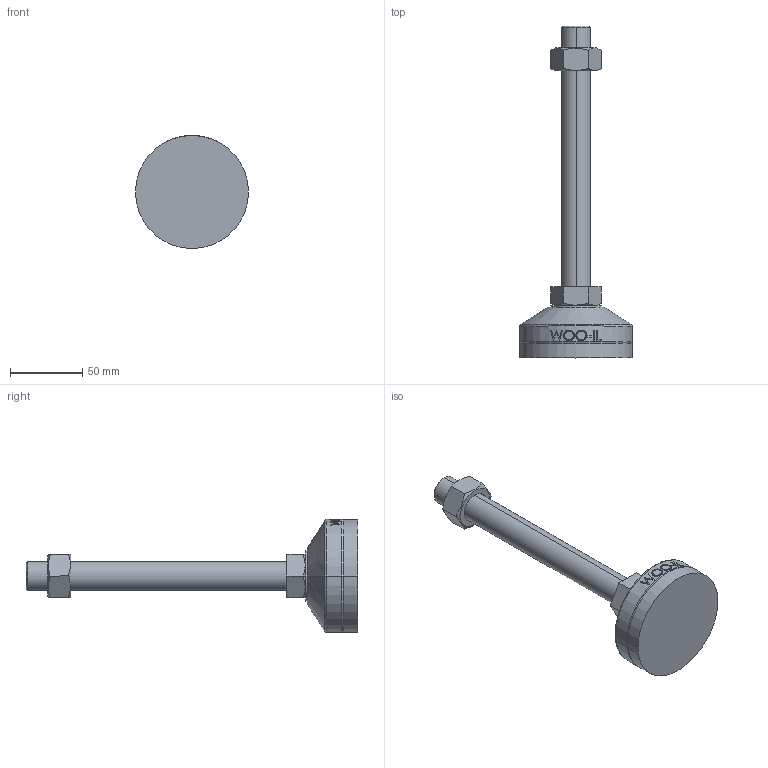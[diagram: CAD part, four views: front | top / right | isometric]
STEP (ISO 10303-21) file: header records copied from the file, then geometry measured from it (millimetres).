
FILE_DESCRIPTION (( 'STEP AP214' ), '1' );
FILE_NAME ('MFR78-M20-180.step', '2021-01-13T05:39:32', ( '' ), ( '' ), 'SwSTEP 2.0', 'SolidWorks 2019', '' );
FILE_SCHEMA (( 'AUTOMOTIVE_DESIGN' ));
Length unit declared in the file: millimetre
Products named in the file (2): MFR78-M20-180
Bounding box: 78 x 229 x 78 mm (x, y, z)
Volume: 217110.2 mm3; surface area: 33782.8 mm2
Topology: 3 solids, 3 shells, 102 faces, 235 edges, 150 vertices
Faces by surface type: plane 48, cylinder 18, bspline 16, cone 14, torus 6
Entity records: 4428 total; most frequent: CARTESIAN_POINT 2173, ORIENTED_EDGE 470, DIRECTION 415, EDGE_CURVE 235, AXIS2_PLACEMENT_3D 158, VERTEX_POINT 150, EDGE_LOOP 115, ADVANCED_FACE 102
